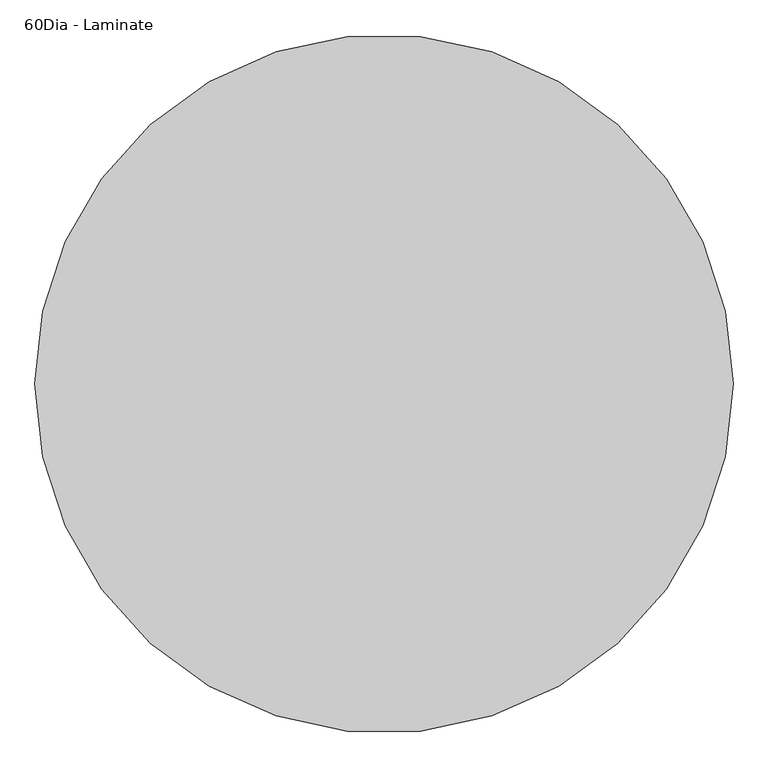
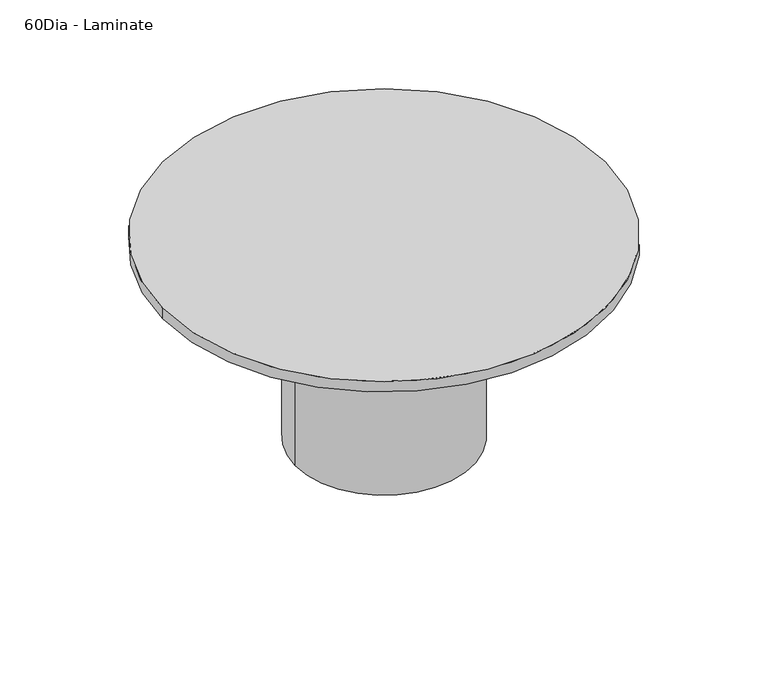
"""IFC4 building model written with IfcOpenShell, lengths in millimetres: furniture geometry, Coalesse_AM_Table_Conference_ETable2_Round : 60Dia - Laminate."""

from ifc_helpers import new_model, si_unit, point, frame, origin, origin_with_axes, origin_2d, place, context, project, spatial, circle_curve, trimmed, segment, composite_curve, outline, extrude, source, transform, mapped, element, save


def furniture_60dia_laminate_3f468efb(model_context):
    return source(origin(), model_context, "Body", "SweptSolid", [
        extrude(outline(composite_curve([segment(trimmed(circle_curve(origin_2d(), 762.0), [point((-762.0, 0.0))], [point((762.0, 0.0))], False, "CARTESIAN"), True, "CONTINUOUS"), segment(trimmed(circle_curve(origin_2d(), 762.0), [point((762.0, 0.0))], [point((-762.0, 0.0))], False, "CARTESIAN"), True, "CONTINUOUS")], self_intersect=False)), frame((0.0, 0.0, 698.5), z_axis=(0.0, 0.0, 1.0), x_axis=(1.0, 0.0, 0.0)), (0.0, 0.0, 1.0), 38.1),
        extrude(outline(composite_curve([segment(trimmed(circle_curve(origin_2d(), 228.6), [point((-228.6, 0.0))], [point((228.6, 0.0))], False, "CARTESIAN"), True, "CONTINUOUS"), segment(trimmed(circle_curve(origin_2d(), 228.6), [point((228.6, 0.0))], [point((-228.6, 0.0))], False, "CARTESIAN"), True, "CONTINUOUS")], self_intersect=False)), origin_with_axes(), (0.0, 0.0, 1.0), 3.175),
        extrude(outline(composite_curve([segment(trimmed(circle_curve(origin_2d(), 304.8), [point((-304.8, 0.0))], [point((304.8, 0.0))], False, "CARTESIAN"), True, "CONTINUOUS"), segment(trimmed(circle_curve(origin_2d(), 304.8), [point((304.8, 0.0))], [point((-304.8, 0.0))], False, "CARTESIAN"), True, "CONTINUOUS")], self_intersect=False), holes=[composite_curve([segment(trimmed(circle_curve(origin_2d(), 158.75), [point((-158.75, 0.0))], [point((158.75, 0.0))], True, "CARTESIAN"), True, "CONTINUOUS"), segment(trimmed(circle_curve(origin_2d(), 158.75), [point((158.75, 0.0))], [point((-158.75, 0.0))], True, "CARTESIAN"), True, "CONTINUOUS")], self_intersect=False)]), frame((0.0, 0.0, 3.175), z_axis=(0.0, 0.0, 1.0), x_axis=(1.0, 0.0, 0.0)), (0.0, 0.0, 1.0), 695.325),
    ])


if __name__ == "__main__":
    model = new_model("IFC4")
    model_context = context("Model", 3, world=origin())
    ifc_project = project(units=[si_unit("LENGTHUNIT", "METRE", prefix="MILLI")], contexts=[model_context])
    site = spatial("IfcSite", under=ifc_project)
    building = spatial("IfcBuilding", under=site)
    placement = place(None, origin())
    furniture_60dia_laminate_shape = furniture_60dia_laminate_3f468efb(model_context)
    element("IfcFurniture", 1, ObjectType="Coalesse_AM_Table_Conference_ETable2_Round : 60Dia - Laminate", at=placement, inside=building, context=model_context, shape_type="MappedRepresentation", body=[
        mapped(furniture_60dia_laminate_shape, transform((0.0, 0.0, 0.0), x_axis=(1.0, 0.0, 0.0), y_axis=(0.0, 1.0, 0.0), z_axis=(0.0, 0.0, 1.0))),
    ])
    save(model, "model.ifc")
